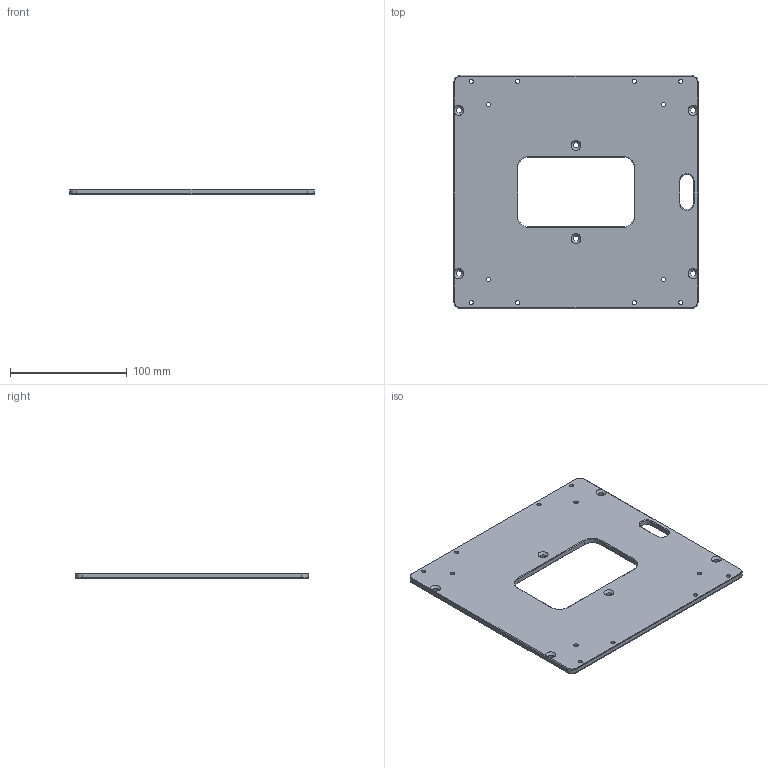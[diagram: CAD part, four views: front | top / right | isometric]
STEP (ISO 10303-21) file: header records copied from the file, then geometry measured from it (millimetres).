
FILE_DESCRIPTION(/* description */ ('STEP AP242 Edition 2','CAx-IF Rec.Pracs.---Representation and Presentation of Product Manufacturing Information (PMI)---4.0---2014-10-13','CAx-IF Rec.Pracs.---3D Tessellated Geometry---0.4---2014-09-14','2;1','CAx-IF Rec.Pracs.---User Defined Attributes---1.5---2016-08-15'),/* implementation_level */ '2;1');
FILE_NAME(/* name */ 'Chassis No Suspension - top_deck',/* time_stamp */ '2026-10-25T14:46:20Z',/* author */ (''),/* organization */ (''),/* preprocessor_version */ 'ST-DEVELOPER v20',/* originating_system */ 'ONSHAPE BY PTC INC, 1.222',/* authorisation */ ' ');
FILE_SCHEMA (('AP242_MANAGED_MODEL_BASED_3D_ENGINEERING_MIM_LF { 1 0 10303 442 3 1 4 }'));
Length unit declared in the file: metre
Products named in the file (1): top_deck
Bounding box: 210 x 200 x 5 mm (x, y, z)
Volume: 176614.5 mm3; surface area: 77180.9 mm2
Topology: 1 solids, 1 shells, 114 faces, 296 edges, 184 vertices
Faces by surface type: plane 56, cylinder 32, cone 22, torus 4
Full cylindrical faces by diameter (mm): 3.6 x12, 4.7 x6
Entity records: 3644 total; most frequent: CARTESIAN_POINT 691, DIRECTION 618, ORIENTED_EDGE 592, EDGE_CURVE 296, AXIS2_PLACEMENT_3D 213, LINE 192, VECTOR 192, VERTEX_POINT 184
